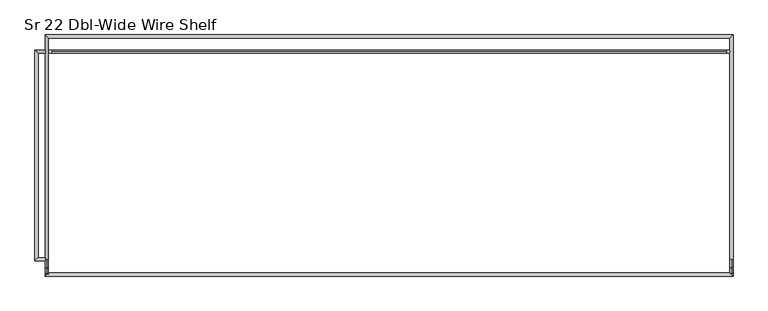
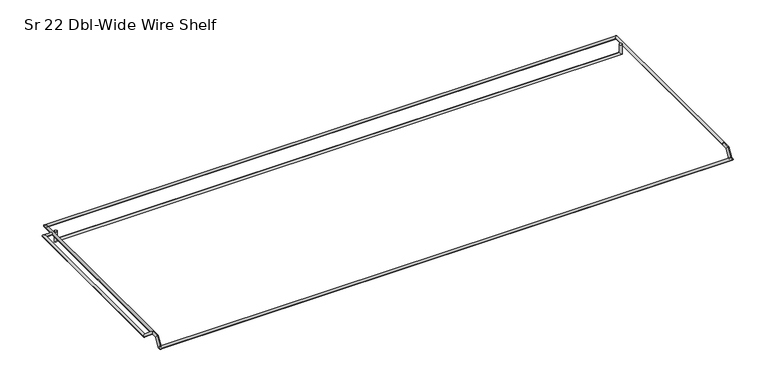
"""IFC4 building model written with IfcOpenShell, lengths in millimetres: furniture geometry, HermanMiller_Carts_CT521_CartShelf : Sr 22 Dbl-Wide Wire Shelf."""

from ifc_helpers import new_model, si_unit, frame, origin, place, context, project, spatial, circle_curve, ellipse_curve, source, transform, mapped, element, save
from ifc_brep_helpers import plane_surface, cylinder_surface, advanced_brep


def sr_22_dbl_wide_wire_shelf_d6008d9c(model_context):
    return source(origin(), model_context, "Body", "AdvancedBrep", [
        advanced_brep(
        [(733.4732983, 136.525, 2168.5377), (738.2357983, 136.525, 2168.5377), (733.4732983, 136.525, 2153.2596), (738.2357983, 136.525, 2148.4971), (-295.1886017, 136.525, 2153.2596), (-299.9511017, 136.525, 2148.4971), (-295.1886017, 136.525, 2168.5377), (-299.9511017, 136.525, 2168.5377)],
        [
            (0, 1, circle_curve(frame((735.8545483, 136.525, 2168.5377), z_axis=(0.0, 0.0, 1.0), x_axis=(1.0, 0.0, 0.0)), 2.38125)),
            (1, 0, circle_curve(frame((735.8545483, 136.525, 2168.5377), z_axis=(0.0, 0.0, 1.0), x_axis=(1.0, 0.0, 0.0)), 2.38125)),
            (0, 2),
            (2, 3, ellipse_curve(frame((735.8545483, 136.525, 2150.87835), z_axis=(0.7071067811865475, 0.0, 0.7071067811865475), x_axis=(-0.7071067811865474, 0.0, 0.7071067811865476)), 3.367596, 2.38125)),
            (3, 1),
            (3, 2, ellipse_curve(frame((735.8545483, 136.525, 2150.87835), z_axis=(0.7071067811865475, 0.0, 0.7071067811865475), x_axis=(-0.7071067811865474, 0.0, 0.7071067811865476)), 3.367596, 2.38125)),
            (2, 4),
            (4, 5, ellipse_curve(frame((-297.5698517, 136.525, 2150.87835), z_axis=(0.7071067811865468, 0.0, -0.7071067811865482), x_axis=(0.7071067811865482, 0.0, 0.7071067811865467)), 3.367596, 2.38125)),
            (5, 3),
            (5, 4, ellipse_curve(frame((-297.5698517, 136.525, 2150.87835), z_axis=(0.7071067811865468, 0.0, -0.7071067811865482), x_axis=(0.7071067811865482, 0.0, 0.7071067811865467)), 3.367596, 2.38125)),
            (6, 7, circle_curve(frame((-297.5698517, 136.525, 2168.5377), z_axis=(0.0, 0.0, 1.0), x_axis=(-1.0, 0.0, 0.0)), 2.38125)),
            (7, 6, circle_curve(frame((-297.5698517, 136.525, 2168.5377), z_axis=(0.0, 0.0, 1.0), x_axis=(-1.0, 0.0, 0.0)), 2.38125)),
            (4, 6),
            (7, 5),
        ],
        [
            plane_surface(frame((735.8545483, 136.525, 2168.5377), z_axis=(0.0, 0.0, 1.0), x_axis=(0.0, -1.0, 0.0))),
            cylinder_surface(frame((735.8545483, 136.525, 2168.5377), z_axis=(0.0, 0.0, 1.0), x_axis=(1.0, 0.0, 0.0)), 2.38125),
            cylinder_surface(frame((735.8545483, 136.525, 2150.87835), z_axis=(1.0, 0.0, 0.0), x_axis=(0.0, 0.0, -1.0)), 2.38125),
            plane_surface(frame((-297.5698517, 136.525, 2168.5377), z_axis=(0.0, 0.0, 1.0), x_axis=(0.0, -1.0, 0.0))),
            cylinder_surface(frame((-297.5698517, 136.525, 2150.87835), z_axis=(0.0, 0.0, -1.0), x_axis=(-1.0, 0.0, 0.0)), 2.38125),
        ],
        [
            (0, [[1, 2]]),
            (1, [[-1, 3, 4, 5]]),
            (1, [[-2, -5, 6, -3]]),
            (2, [[-4, 7, 8, 9]]),
            (2, [[-6, -9, 10, -7]]),
            (3, [[11, 12]]),
            (4, [[-8, 13, -12, 14]]),
            (4, [[-10, -14, -11, -13]]),
        ],
    ),
        advanced_brep(
        [(-305.0526917, -178.26736, 2166.1501), (-305.0526917, -183.04256, 2166.1501), (-305.0526917, 133.81736, 2166.1501), (-305.0526917, 138.59256, 2166.1501), (-316.1524917, -178.26736, 2166.1501), (-320.9276917, -183.04256, 2166.1501), (-316.1524917, 133.81736, 2166.1501), (-320.9276917, 138.59256, 2166.1501)],
        [
            (0, 1, circle_curve(frame((-305.0526917, -180.65496, 2166.1501), z_axis=(1.0, 0.0, 0.0), x_axis=(0.0, -1.0, 0.0)), 2.3876)),
            (1, 0, circle_curve(frame((-305.0526917, -180.65496, 2166.1501), z_axis=(1.0, 0.0, 0.0), x_axis=(0.0, -1.0, 0.0)), 2.3876)),
            (2, 3, circle_curve(frame((-305.0526917, 136.20496, 2166.1501), z_axis=(1.0, 0.0, 0.0), x_axis=(0.0, 1.0, 0.0)), 2.3876)),
            (3, 2, circle_curve(frame((-305.0526917, 136.20496, 2166.1501), z_axis=(1.0, 0.0, 0.0), x_axis=(0.0, 1.0, 0.0)), 2.3876)),
            (0, 4),
            (4, 5, ellipse_curve(frame((-318.5400917, -180.65496, 2166.1501), z_axis=(0.7071067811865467, -0.7071067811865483, 0.0), x_axis=(0.7071067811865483, 0.7071067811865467, 0.0)), 3.3765763, 2.3876)),
            (5, 1),
            (5, 4, ellipse_curve(frame((-318.5400917, -180.65496, 2166.1501), z_axis=(0.7071067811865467, -0.7071067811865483, 0.0), x_axis=(0.7071067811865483, 0.7071067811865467, 0.0)), 3.3765763, 2.3876)),
            (4, 6),
            (6, 7, ellipse_curve(frame((-318.5400917, 136.20496, 2166.1501), z_axis=(-0.7071067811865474, -0.7071067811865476, 0.0), x_axis=(0.7071067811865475, -0.7071067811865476, 0.0)), 3.3765763, 2.3876)),
            (7, 5),
            (7, 6, ellipse_curve(frame((-318.5400917, 136.20496, 2166.1501), z_axis=(-0.7071067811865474, -0.7071067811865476, 0.0), x_axis=(0.7071067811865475, -0.7071067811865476, 0.0)), 3.3765763, 2.3876)),
            (6, 2),
            (3, 7),
        ],
        [
            plane_surface(frame((-305.0526917, -180.65496, 2166.1501), z_axis=(1.0, 0.0, 0.0), x_axis=(0.0, 0.0, 1.0))),
            plane_surface(frame((-305.0526917, 136.20496, 2166.1501), z_axis=(1.0, 0.0, 0.0), x_axis=(0.0, 0.0, 1.0))),
            cylinder_surface(frame((-305.0526917, -180.65496, 2166.1501), z_axis=(1.0, 0.0, 0.0), x_axis=(0.0, -1.0, 0.0)), 2.3876),
            cylinder_surface(frame((-318.5400917, -180.65496, 2166.1501), z_axis=(0.0, -1.0, 0.0), x_axis=(-1.0, 0.0, 0.0)), 2.3876),
            cylinder_surface(frame((-318.5400917, 136.20496, 2166.1501), z_axis=(-1.0, 0.0, 0.0), x_axis=(0.0, 1.0, 0.0)), 2.3876),
        ],
        [
            (0, [[1, 2]]),
            (1, [[3, 4]]),
            (2, [[-1, 5, 6, 7]]),
            (2, [[-2, -7, 8, -5]]),
            (3, [[-6, 9, 10, 11]]),
            (3, [[-8, -11, 12, -9]]),
            (4, [[-10, 13, -4, 14]]),
            (4, [[-12, -14, -3, -13]]),
        ],
    ),
        advanced_brep(
        [(738.5621883, -201.5998, 2150.8847), (743.3373883, -201.5998, 2150.8847), (743.3373883, -206.375, 2150.8847), (-300.2774917, -201.5998, 2150.8847), (-305.0526917, -206.375, 2150.8847), (-305.0526917, -201.5998, 2150.8847)],
        [
            (0, 1, circle_curve(frame((740.9497883, -201.5998, 2150.8847), z_axis=(0.0, 1.0, 0.0), x_axis=(1.0, 0.0, 0.0)), 2.3876)),
            (1, 0, circle_curve(frame((740.9497883, -201.5998, 2150.8847), z_axis=(0.0, 1.0, 0.0), x_axis=(1.0, 0.0, 0.0)), 2.3876)),
            (0, 2, ellipse_curve(frame((740.9497883, -203.9874, 2150.8847), z_axis=(0.7071067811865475, 0.7071067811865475, 0.0), x_axis=(-0.7071067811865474, 0.7071067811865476, 0.0)), 3.3765763, 2.3876)),
            (2, 1),
            (2, 0, ellipse_curve(frame((740.9497883, -203.9874, 2150.8847), z_axis=(0.7071067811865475, 0.7071067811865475, 0.0), x_axis=(-0.7071067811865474, 0.7071067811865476, 0.0)), 3.3765763, 2.3876)),
            (0, 3),
            (3, 4, ellipse_curve(frame((-302.6650917, -203.9874, 2150.8847), z_axis=(0.7071067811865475, -0.7071067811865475, 0.0), x_axis=(0.7071067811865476, 0.7071067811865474, 0.0)), 3.3765763, 2.3876)),
            (4, 2),
            (4, 3, ellipse_curve(frame((-302.6650917, -203.9874, 2150.8847), z_axis=(0.7071067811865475, -0.7071067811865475, 0.0), x_axis=(0.7071067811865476, 0.7071067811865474, 0.0)), 3.3765763, 2.3876)),
            (3, 5, circle_curve(frame((-302.6650917, -201.5998, 2150.8847), z_axis=(0.0, 1.0, 0.0), x_axis=(-1.0, 0.0, 0.0)), 2.3876)),
            (5, 3, circle_curve(frame((-302.6650917, -201.5998, 2150.8847), z_axis=(0.0, 1.0, 0.0), x_axis=(-1.0, 0.0, 0.0)), 2.3876)),
            (5, 4),
        ],
        [
            plane_surface(frame((740.9497883, -201.5998, 2150.8847), z_axis=(0.0, 1.0, 0.0), x_axis=(0.0, 0.0, 1.0))),
            cylinder_surface(frame((740.9497883, -201.5998, 2150.8847), z_axis=(0.0, 1.0, 0.0), x_axis=(1.0, 0.0, 0.0)), 2.3876),
            cylinder_surface(frame((740.9497883, -203.9874, 2150.8847), z_axis=(1.0, 0.0, 0.0), x_axis=(0.0, -1.0, 0.0)), 2.3876),
            plane_surface(frame((-302.6650917, -201.5998, 2150.8847), z_axis=(0.0, 1.0, 0.0), x_axis=(0.0, 0.0, 1.0))),
            cylinder_surface(frame((-302.6650917, -203.9874, 2150.8847), z_axis=(0.0, -1.0, 0.0), x_axis=(-1.0, 0.0, 0.0)), 2.3876),
        ],
        [
            (0, [[1, 2]]),
            (1, [[-1, 3, 4]]),
            (1, [[-2, -4, 5]]),
            (2, [[-3, 6, 7, 8]]),
            (2, [[-5, -8, 9, -6]]),
            (3, [[10, 11]]),
            (4, [[-7, -11, 12]]),
            (4, [[-9, -12, -10]]),
        ],
    ),
        advanced_brep(
        [(743.3373883, -180.65496, 2166.1501), (738.5621883, -180.65496, 2166.1501), (743.3373883, 161.925, 2166.1501), (738.5621883, 157.1498, 2166.1501), (-305.0526917, 161.925, 2166.1501), (-300.2774917, 157.1498, 2166.1501), (-305.0526917, -180.65496, 2166.1501), (-300.2774917, -180.65496, 2166.1501)],
        [
            (0, 1, circle_curve(frame((740.9497883, -180.65496, 2166.1501), z_axis=(0.0, -1.0, 0.0), x_axis=(-1.0, 0.0, 0.0)), 2.3876)),
            (1, 0, circle_curve(frame((740.9497883, -180.65496, 2166.1501), z_axis=(0.0, -1.0, 0.0), x_axis=(-1.0, 0.0, 0.0)), 2.3876)),
            (0, 2),
            (2, 3, ellipse_curve(frame((740.9497883, 159.5374, 2166.1501), z_axis=(0.7071067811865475, -0.7071067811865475, 0.0), x_axis=(-0.7071067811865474, -0.7071067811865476, 0.0)), 3.3765763, 2.3876)),
            (3, 1),
            (3, 2, ellipse_curve(frame((740.9497883, 159.5374, 2166.1501), z_axis=(0.7071067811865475, -0.7071067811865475, 0.0), x_axis=(-0.7071067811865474, -0.7071067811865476, 0.0)), 3.3765763, 2.3876)),
            (2, 4),
            (4, 5, ellipse_curve(frame((-302.6650917, 159.5374, 2166.1501), z_axis=(0.7071067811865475, 0.7071067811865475, 0.0), x_axis=(0.7071067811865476, -0.7071067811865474, 0.0)), 3.3765763, 2.3876)),
            (5, 3),
            (5, 4, ellipse_curve(frame((-302.6650917, 159.5374, 2166.1501), z_axis=(0.7071067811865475, 0.7071067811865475, 0.0), x_axis=(0.7071067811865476, -0.7071067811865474, 0.0)), 3.3765763, 2.3876)),
            (6, 7, circle_curve(frame((-302.6650917, -180.65496, 2166.1501), z_axis=(0.0, -1.0, 0.0), x_axis=(1.0, 0.0, 0.0)), 2.3876)),
            (7, 6, circle_curve(frame((-302.6650917, -180.65496, 2166.1501), z_axis=(0.0, -1.0, 0.0), x_axis=(1.0, 0.0, 0.0)), 2.3876)),
            (4, 6),
            (7, 5),
        ],
        [
            plane_surface(frame((740.9497883, -180.65496, 2166.1501), z_axis=(0.0, -1.0, 0.0), x_axis=(0.0, 0.0, 1.0))),
            cylinder_surface(frame((740.9497883, -180.65496, 2166.1501), z_axis=(0.0, -1.0, 0.0), x_axis=(-1.0, 0.0, 0.0)), 2.3876),
            cylinder_surface(frame((740.9497883, 159.5374, 2166.1501), z_axis=(1.0, 0.0, 0.0), x_axis=(0.0, -1.0, 0.0)), 2.3876),
            plane_surface(frame((-302.6650917, -180.65496, 2166.1501), z_axis=(0.0, -1.0, 0.0), x_axis=(0.0, 0.0, 1.0))),
            cylinder_surface(frame((-302.6650917, 159.5374, 2166.1501), z_axis=(0.0, 1.0, 0.0), x_axis=(1.0, 0.0, 0.0)), 2.3876),
        ],
        [
            (0, [[1, 2]]),
            (1, [[-1, 3, 4, 5]]),
            (1, [[-2, -5, 6, -3]]),
            (2, [[-4, 7, 8, 9]]),
            (2, [[-6, -9, 10, -7]]),
            (3, [[11, 12]]),
            (4, [[-8, 13, -12, 14]]),
            (4, [[-10, -14, -11, -13]]),
        ],
    ),
        advanced_brep(
        [(740.9497883, -180.65496, 2168.5377), (740.9497883, -180.65496, 2163.7625), (740.9497883, -191.442659, 2163.7625), (740.9497883, -194.205541, 2168.5377), (740.9497883, -200.218359, 2148.4971), (740.9497883, -202.981241, 2153.2723), (740.9497883, -203.9874, 2153.2723), (740.9497883, -203.9874, 2148.4971)],
        [
            (0, 1, circle_curve(frame((740.9497883, -180.65496, 2166.1501), z_axis=(0.0, 1.0, 0.0), x_axis=(0.0, 0.0, -1.0)), 2.3876)),
            (1, 0, circle_curve(frame((740.9497883, -180.65496, 2166.1501), z_axis=(0.0, 1.0, 0.0), x_axis=(0.0, 0.0, -1.0)), 2.3876)),
            (1, 2),
            (2, 3, ellipse_curve(frame((740.9497883, -192.8241, 2166.1501), z_axis=(0.0, 0.8655604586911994, 0.5008044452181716), x_axis=(0.0, 0.5008044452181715, -0.8655604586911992)), 2.7584439, 2.3876)),
            (3, 0),
            (3, 2, ellipse_curve(frame((740.9497883, -192.8241, 2166.1501), z_axis=(0.0, 0.8655604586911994, 0.5008044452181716), x_axis=(0.0, 0.5008044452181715, -0.8655604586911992)), 2.7584439, 2.3876)),
            (2, 4),
            (4, 5, ellipse_curve(frame((740.9497883, -201.5998, 2150.8847), z_axis=(0.0, 0.8655604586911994, 0.5008044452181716), x_axis=(0.0, -0.5008044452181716, 0.8655604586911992)), 2.7584439, 2.3876)),
            (5, 3),
            (5, 4, ellipse_curve(frame((740.9497883, -201.5998, 2150.8847), z_axis=(0.0, 0.8655604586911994, 0.5008044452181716), x_axis=(0.0, -0.5008044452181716, 0.8655604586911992)), 2.7584439, 2.3876)),
            (6, 7, circle_curve(frame((740.9497883, -203.9874, 2150.8847), z_axis=(0.0, -1.0, 0.0), x_axis=(0.0, 0.0, -1.0)), 2.3876)),
            (7, 6, circle_curve(frame((740.9497883, -203.9874, 2150.8847), z_axis=(0.0, -1.0, 0.0), x_axis=(0.0, 0.0, -1.0)), 2.3876)),
            (4, 7),
            (6, 5),
        ],
        [
            plane_surface(frame((740.9497883, -180.65496, 2166.1501), z_axis=(0.0, 1.0, 0.0), x_axis=(1.0, 0.0, 0.0))),
            cylinder_surface(frame((740.9497883, -180.65496, 2166.1501), z_axis=(0.0, 1.0, 0.0), x_axis=(0.0, 0.0, -1.0)), 2.3876),
            cylinder_surface(frame((740.9497883, -192.8241, 2166.1501), z_axis=(0.0, 0.4983898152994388, 0.8669530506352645), x_axis=(0.0, 0.8669530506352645, -0.4983898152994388)), 2.3876),
            plane_surface(frame((740.9497883, -203.9874, 2150.8847), z_axis=(0.0, -1.0, 0.0), x_axis=(1.0, 0.0, 0.0))),
            cylinder_surface(frame((740.9497883, -201.5998, 2150.8847), z_axis=(0.0, 1.0, 0.0), x_axis=(0.0, 0.0, -1.0)), 2.3876),
        ],
        [
            (0, [[1, 2]]),
            (1, [[-2, 3, 4, 5]]),
            (1, [[-1, -5, 6, -3]]),
            (2, [[-4, 7, 8, 9]]),
            (2, [[-6, -9, 10, -7]]),
            (3, [[11, 12]]),
            (4, [[-8, 13, -11, 14]]),
            (4, [[-10, -14, -12, -13]]),
        ],
    ),
        advanced_brep(
        [(-302.6650917, -180.65496, 2163.7625), (-302.6650917, -180.65496, 2168.5377), (-302.6650917, -191.442659, 2163.7625), (-302.6650917, -194.205541, 2168.5377), (-302.6650917, -200.218359, 2148.4971), (-302.6650917, -202.981241, 2153.2723), (-302.6650917, -203.9874, 2148.4971), (-302.6650917, -203.9874, 2153.2723)],
        [
            (0, 1, circle_curve(frame((-302.6650917, -180.65496, 2166.1501), z_axis=(0.0, 1.0, 0.0), x_axis=(0.0, 0.0, 1.0)), 2.3876)),
            (1, 0, circle_curve(frame((-302.6650917, -180.65496, 2166.1501), z_axis=(0.0, 1.0, 0.0), x_axis=(0.0, 0.0, 1.0)), 2.3876)),
            (0, 2),
            (2, 3, ellipse_curve(frame((-302.6650917, -192.8241, 2166.1501), z_axis=(0.0, 0.8655604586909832, 0.5008044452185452), x_axis=(0.0, 0.5008044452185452, -0.8655604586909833)), 2.7584439, 2.3876)),
            (3, 1),
            (3, 2, ellipse_curve(frame((-302.6650917, -192.8241, 2166.1501), z_axis=(0.0, 0.8655604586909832, 0.5008044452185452), x_axis=(0.0, 0.5008044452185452, -0.8655604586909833)), 2.7584439, 2.3876)),
            (2, 4),
            (4, 5, ellipse_curve(frame((-302.6650917, -201.5998, 2150.8847), z_axis=(0.0, 0.8655604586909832, 0.5008044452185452), x_axis=(0.0, -0.5008044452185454, 0.8655604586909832)), 2.7584439, 2.3876)),
            (5, 3),
            (5, 4, ellipse_curve(frame((-302.6650917, -201.5998, 2150.8847), z_axis=(0.0, 0.8655604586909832, 0.5008044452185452), x_axis=(0.0, -0.5008044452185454, 0.8655604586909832)), 2.7584439, 2.3876)),
            (6, 7, circle_curve(frame((-302.6650917, -203.9874, 2150.8847), z_axis=(0.0, -1.0, 0.0), x_axis=(0.0, 0.0, 1.0)), 2.3876)),
            (7, 6, circle_curve(frame((-302.6650917, -203.9874, 2150.8847), z_axis=(0.0, -1.0, 0.0), x_axis=(0.0, 0.0, 1.0)), 2.3876)),
            (4, 6),
            (7, 5),
        ],
        [
            plane_surface(frame((-302.6650917, -180.65496, 2166.1501), z_axis=(0.0, 1.0, 0.0), x_axis=(-1.0, 0.0, 0.0))),
            cylinder_surface(frame((-302.6650917, -180.65496, 2166.1501), z_axis=(0.0, 1.0, 0.0), x_axis=(0.0, 0.0, 1.0)), 2.3876),
            cylinder_surface(frame((-302.6650917, -192.8241, 2166.1501), z_axis=(0.0, 0.4983898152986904, 0.8669530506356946), x_axis=(0.0, -0.8669530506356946, 0.4983898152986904)), 2.3876),
            plane_surface(frame((-302.6650917, -203.9874, 2150.8847), z_axis=(0.0, -1.0, 0.0), x_axis=(-1.0, 0.0, 0.0))),
            cylinder_surface(frame((-302.6650917, -201.5998, 2150.8847), z_axis=(0.0, 1.0, 0.0), x_axis=(0.0, 0.0, 1.0)), 2.3876),
        ],
        [
            (0, [[1, 2]]),
            (1, [[-1, 3, 4, 5]]),
            (1, [[-2, -5, 6, -3]]),
            (2, [[-4, 7, 8, 9]]),
            (2, [[-6, -9, 10, -7]]),
            (3, [[11, 12]]),
            (4, [[-8, 13, -12, 14]]),
            (4, [[-10, -14, -11, -13]]),
        ],
    ),
    ])


if __name__ == "__main__":
    model = new_model("IFC4")
    model_context = context("Model", 3, world=origin())
    ifc_project = project(units=[si_unit("LENGTHUNIT", "METRE", prefix="MILLI")], contexts=[model_context])
    site = spatial("IfcSite", under=ifc_project)
    building = spatial("IfcBuilding", under=site)
    placement = place(None, origin())
    sr_22_dbl_wide_wire_shelf_shape = sr_22_dbl_wide_wire_shelf_d6008d9c(model_context)
    element("IfcFurniture", 1, ObjectType="HermanMiller_Carts_CT521_CartShelf : Sr 22 Dbl-Wide Wire Shelf", at=placement, inside=building, context=model_context, shape_type="MappedRepresentation", body=[
        mapped(sr_22_dbl_wide_wire_shelf_shape, transform((0.0, 0.0, 0.0), x_axis=(1.0, 0.0, 0.0), y_axis=(0.0, 1.0, 0.0), z_axis=(0.0, 0.0, 1.0))),
    ])
    save(model, "model.ifc")
